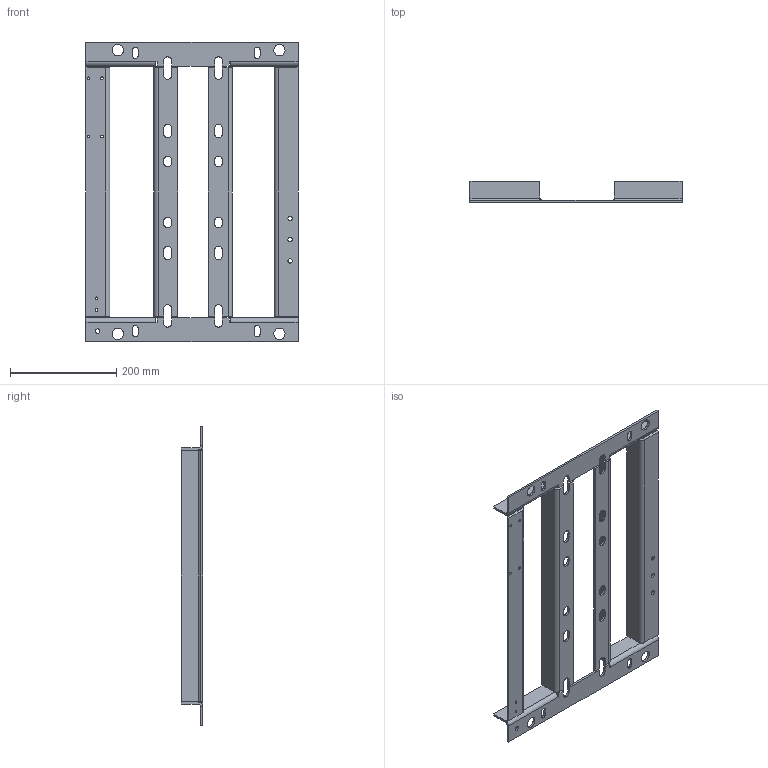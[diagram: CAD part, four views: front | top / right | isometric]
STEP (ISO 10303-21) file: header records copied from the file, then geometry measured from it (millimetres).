
FILE_DESCRIPTION(('STEP AP203'), '1');
FILE_NAME('栖闉罻', '', ('UNSPECIFIED'), ('UNSPECIFIED'), 'ASCON STEP Converter 1.6', 'ASCON Math Kernel', '');
FILE_SCHEMA(('CONFIG_CONTROL_DESIGN'));
Length unit declared in the file: millimetre
Assembly tree (7 placements, depth 3):
  (unnamed)
    (unnamed)
    (unnamed)
      (unnamed)
    (unnamed)
    (unnamed)  x2
    (unnamed)
Bounding box: 400 x 40 x 565 mm (x, y, z)
Volume: 775678.2 mm3; surface area: 419798.6 mm2
Topology: 6 solids, 6 shells, 234 faces, 586 edges, 364 vertices
Faces by surface type: plane 164, cylinder 62, cone 8
Full cylindrical faces by diameter (mm): 5 x6, 8.2 x3, 8.5 x1, 21 x4
Entity records: 7390 total; most frequent: DIRECTION 950, CARTESIAN_POINT 936, ORIENTED_EDGE 904, EDGE_CURVE 452, LINE 346, VECTOR 346, AXIS2_PLACEMENT_3D 302, VERTEX_POINT 288
